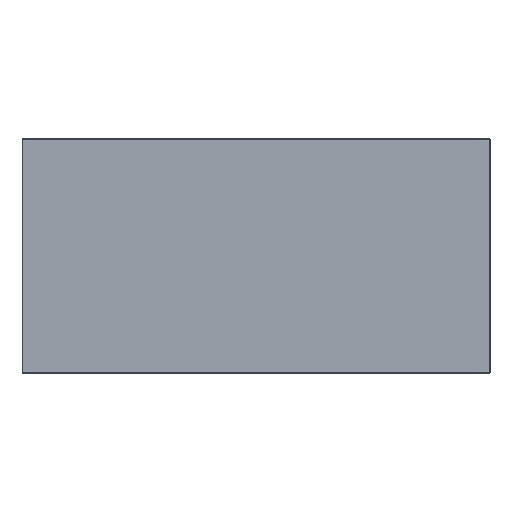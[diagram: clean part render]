
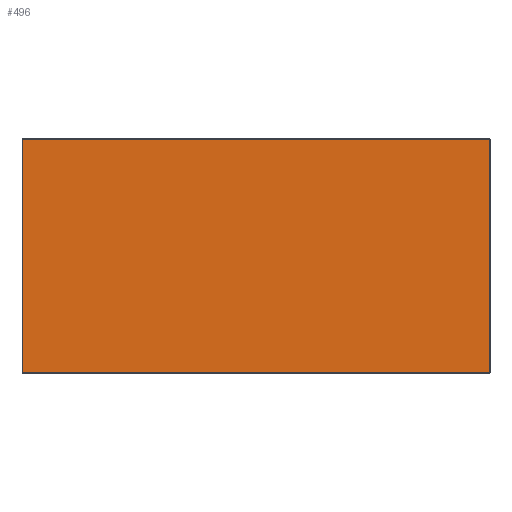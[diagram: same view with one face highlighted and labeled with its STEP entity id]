
A CAD part, top view. The second image highlights one B-rep face of the part: STEP entity #496.
In plain terms, the highlighted planar face has unit normal (0, 0, 1).
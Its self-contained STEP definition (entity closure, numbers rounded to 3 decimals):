
#48 = DIRECTION ( 'NONE',  ( -1., 0., 0. ) ) ;
#51 = CARTESIAN_POINT ( 'NONE',  ( 0., 0., 4. ) ) ;
#113 = VERTEX_POINT ( 'NONE', #802 ) ;
#124 = CARTESIAN_POINT ( 'NONE',  ( 0., -399.5, 4. ) ) ;
#131 = DIRECTION ( 'NONE',  ( 1., 0., 0. ) ) ;
#170 = EDGE_CURVE ( 'NONE', #678, #1340, #936, .T. ) ;
#175 = EDGE_CURVE ( 'NONE', #1340, #327, #1251, .T. ) ;
#231 = ORIENTED_EDGE ( 'NONE', *, *, #847, .T. ) ;
#232 = EDGE_CURVE ( 'NONE', #113, #678, #644, .T. ) ;
#277 = VECTOR ( 'NONE', #131, 1000. ) ;
#284 = DIRECTION ( 'NONE',  ( -1., 0., 0. ) ) ;
#327 = VERTEX_POINT ( 'NONE', #558 ) ;
#380 = ORIENTED_EDGE ( 'NONE', *, *, #170, .T. ) ;
#389 = DIRECTION ( 'NONE',  ( 0., 1., 0. ) ) ;
#423 = ORIENTED_EDGE ( 'NONE', *, *, #175, .T. ) ;
#496 = ADVANCED_FACE ( 'NONE', ( #974 ), #616, .F. ) ;
#511 = CARTESIAN_POINT ( 'NONE',  ( -799.5, 0., 4. ) ) ;
#558 = CARTESIAN_POINT ( 'NONE',  ( -799.5, -399.5, 4. ) ) ;
#616 = PLANE ( 'NONE',  #655 ) ;
#630 = CARTESIAN_POINT ( 'NONE',  ( 799.5, 399.5, 4. ) ) ;
#644 = LINE ( 'NONE', #948, #660 ) ;
#655 = AXIS2_PLACEMENT_3D ( 'NONE', #51, #1192, #48 ) ;
#660 = VECTOR ( 'NONE', #389, 1000. ) ;
#677 = VECTOR ( 'NONE', #1066, 1000. ) ;
#678 = VERTEX_POINT ( 'NONE', #630 ) ;
#709 = CARTESIAN_POINT ( 'NONE',  ( -799.5, 399.5, 4. ) ) ;
#716 = CARTESIAN_POINT ( 'NONE',  ( 0., 399.5, 4. ) ) ;
#717 = VECTOR ( 'NONE', #284, 1000. ) ;
#802 = CARTESIAN_POINT ( 'NONE',  ( 799.5, -399.5, 4. ) ) ;
#847 = EDGE_CURVE ( 'NONE', #327, #113, #1419, .T. ) ;
#936 = LINE ( 'NONE', #716, #717 ) ;
#948 = CARTESIAN_POINT ( 'NONE',  ( 799.5, 0., 4. ) ) ;
#974 = FACE_OUTER_BOUND ( 'NONE', #1128, .T. ) ;
#1066 = DIRECTION ( 'NONE',  ( 0., -1., 0. ) ) ;
#1128 = EDGE_LOOP ( 'NONE', ( #1329, #380, #423, #231 ) ) ;
#1192 = DIRECTION ( 'NONE',  ( 0., 0., -1. ) ) ;
#1251 = LINE ( 'NONE', #511, #677 ) ;
#1329 = ORIENTED_EDGE ( 'NONE', *, *, #232, .T. ) ;
#1340 = VERTEX_POINT ( 'NONE', #709 ) ;
#1419 = LINE ( 'NONE', #124, #277 ) ;
